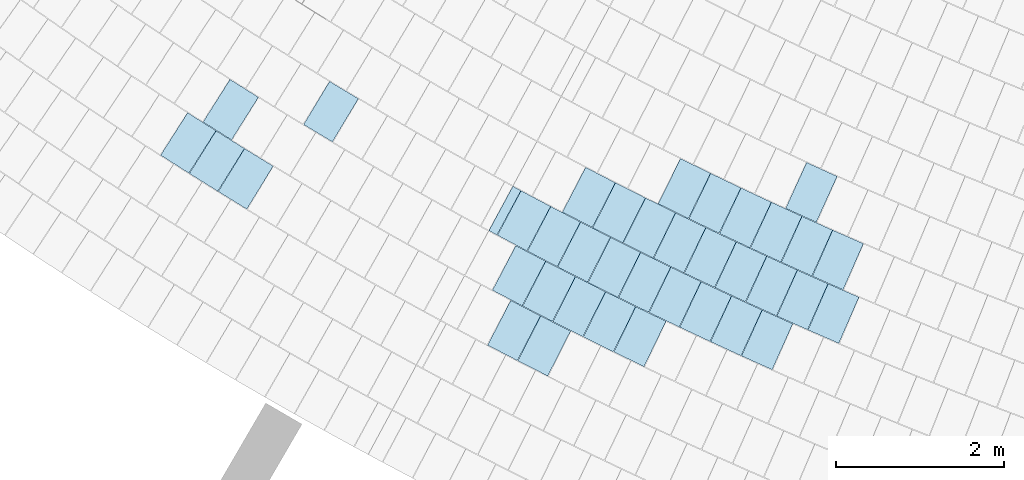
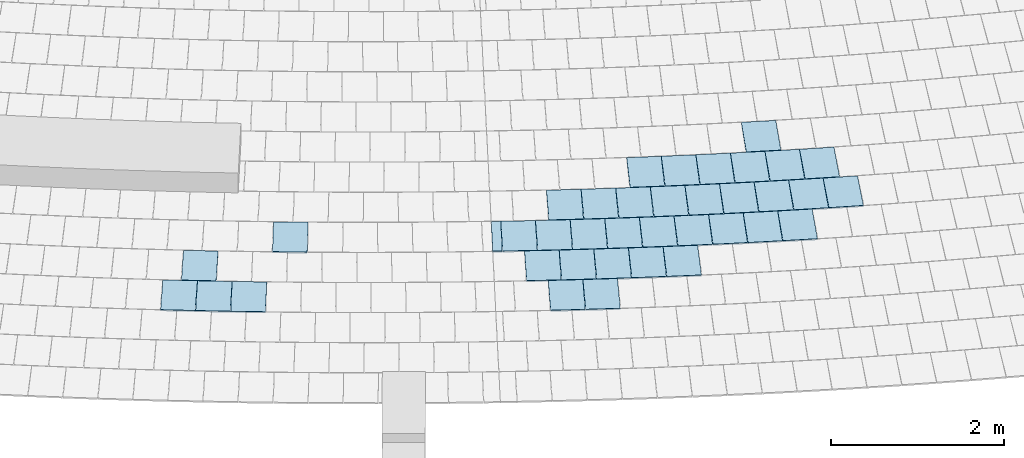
# One storey, part 103 of 438: 38 slabs.
"""IFC2X3 building model written with IfcOpenShell, lengths in millimetres."""

from ifc_helpers import new_model, entity, si_unit, converted_unit, derived_unit, direction, frame, frame_2d, origin, place, context, subcontext, project, spatial, polyline, rectangle, outline, extrude, material, layer, layer_set, layer_usage, type_object, element, save


model = new_model("IFC2X3")

# Units and contexts
model_context = context("Model", 3, precision=0.01, world=origin(), true_north=direction((6.123031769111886e-17, 1.0)))
body_context = subcontext(model_context, "Body", "Model", "MODEL_VIEW")
ifc_project = project(units=[si_unit("LENGTHUNIT", "METRE", prefix="MILLI"), si_unit("AREAUNIT", "SQUARE_METRE"), si_unit("VOLUMEUNIT", "CUBIC_METRE"), converted_unit("PLANEANGLEUNIT", "DEGREE", entity("IfcRatioMeasure", 0.017453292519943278), si_unit("PLANEANGLEUNIT", "RADIAN"), dimensions=[0, 0, 0, 0, 0, 0, 0]), si_unit("MASSUNIT", "GRAM", prefix="KILO"), derived_unit("MASSDENSITYUNIT", [(si_unit("MASSUNIT", "GRAM", prefix="KILO"), 1), (si_unit("LENGTHUNIT", "METRE"), -3)]), derived_unit("MOMENTOFINERTIAUNIT", [(si_unit("LENGTHUNIT", "METRE"), 4)]), si_unit("TIMEUNIT", "SECOND"), si_unit("FREQUENCYUNIT", "HERTZ"), si_unit("THERMODYNAMICTEMPERATUREUNIT", "DEGREE_CELSIUS"), derived_unit("THERMALTRANSMITTANCEUNIT", [(si_unit("MASSUNIT", "GRAM", prefix="KILO"), 1), (si_unit("THERMODYNAMICTEMPERATUREUNIT", "KELVIN"), -1), (si_unit("TIMEUNIT", "SECOND"), -3)]), derived_unit("THERMALCONDUCTANCEUNIT", [(si_unit("MASSUNIT", "GRAM", prefix="KILO"), 1), (si_unit("LENGTHUNIT", "METRE"), 1), (si_unit("THERMODYNAMICTEMPERATUREUNIT", "KELVIN"), -1), (si_unit("TIMEUNIT", "SECOND"), -3)]), derived_unit("VOLUMETRICFLOWRATEUNIT", [(si_unit("LENGTHUNIT", "METRE"), 3), (si_unit("TIMEUNIT", "SECOND"), -1)]), derived_unit("MASSFLOWRATEUNIT", [(si_unit("MASSUNIT", "GRAM", prefix="KILO"), 1), (si_unit("TIMEUNIT", "SECOND"), -1)]), derived_unit("ROTATIONALFREQUENCYUNIT", [(si_unit("TIMEUNIT", "SECOND"), -1)]), si_unit("ELECTRICCURRENTUNIT", "AMPERE"), si_unit("ELECTRICVOLTAGEUNIT", "VOLT"), si_unit("POWERUNIT", "WATT"), converted_unit("FORCEUNIT", "KIP", entity("IfcRatioMeasure", 2.088543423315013e-05), si_unit("FORCEUNIT", "NEWTON"), dimensions=[1, 1, -2, 0, 0, 0, 0]), si_unit("ILLUMINANCEUNIT", "LUX"), si_unit("LUMINOUSFLUXUNIT", "LUMEN"), si_unit("LUMINOUSINTENSITYUNIT", "CANDELA"), derived_unit("USERDEFINED", [(si_unit("MASSUNIT", "GRAM", prefix="KILO"), -1), (si_unit("LENGTHUNIT", "METRE"), -2), (si_unit("TIMEUNIT", "SECOND"), 3), (si_unit("LUMINOUSFLUXUNIT", "LUMEN"), 1)]), derived_unit("USERDEFINED", [(si_unit("MASSUNIT", "GRAM", prefix="KILO"), 1), (si_unit("LENGTHUNIT", "METRE"), 3), (si_unit("TIMEUNIT", "SECOND"), -3), (si_unit("ELECTRICCURRENTUNIT", "AMPERE"), -2)]), derived_unit("USERDEFINED", [(si_unit("LENGTHUNIT", "METRE"), 2), (si_unit("TIMEUNIT", "SECOND"), -2)]), derived_unit("SOUNDPOWERUNIT", [(si_unit("MASSUNIT", "GRAM", prefix="KILO"), 1), (si_unit("LENGTHUNIT", "METRE"), 2), (si_unit("TIMEUNIT", "SECOND"), -3)]), derived_unit("SOUNDPRESSUREUNIT", [(si_unit("MASSUNIT", "GRAM", prefix="KILO"), 1), (si_unit("LENGTHUNIT", "METRE"), -1), (si_unit("TIMEUNIT", "SECOND"), -2)]), derived_unit("LINEARVELOCITYUNIT", [(si_unit("LENGTHUNIT", "METRE"), 1), (si_unit("TIMEUNIT", "SECOND"), -1)]), si_unit("PRESSUREUNIT", "PASCAL"), derived_unit("USERDEFINED", [(si_unit("LENGTHUNIT", "METRE"), -2), (si_unit("MASSUNIT", "GRAM", prefix="KILO"), 1), (si_unit("TIMEUNIT", "SECOND"), -2)]), derived_unit("LINEARFORCEUNIT", [(si_unit("MASSUNIT", "GRAM", prefix="KILO"), 1), (si_unit("LENGTHUNIT", "METRE"), 1), (si_unit("TIMEUNIT", "SECOND"), -2), (si_unit("LENGTHUNIT", "METRE"), -1)]), derived_unit("PLANARFORCEUNIT", [(si_unit("MASSUNIT", "GRAM", prefix="KILO"), 1), (si_unit("LENGTHUNIT", "METRE"), 1), (si_unit("TIMEUNIT", "SECOND"), -2), (si_unit("LENGTHUNIT", "METRE"), -2)]), derived_unit("SPECIFICHEATCAPACITYUNIT", [(si_unit("LENGTHUNIT", "METRE"), 2), (si_unit("TIMEUNIT", "SECOND"), -2), (si_unit("THERMODYNAMICTEMPERATUREUNIT", "KELVIN"), -1)]), derived_unit("VAPORPERMEABILITYUNIT", [(si_unit("TIMEUNIT", "SECOND"), 1), (si_unit("LENGTHUNIT", "METRE"), -1)]), derived_unit("DYNAMICVISCOSITYUNIT", [(si_unit("MASSUNIT", "GRAM", prefix="KILO"), 1), (si_unit("LENGTHUNIT", "METRE"), -1), (si_unit("TIMEUNIT", "SECOND"), -1)]), derived_unit("THERMALEXPANSIONCOEFFICIENTUNIT", [(si_unit("THERMODYNAMICTEMPERATUREUNIT", "KELVIN"), -1)])], contexts=[model_context])

# Site, building, storey
site_placement = place(None, frame((0.0, 0.0, 0.0), z_axis=(0.0, 0.0, 1.0), x_axis=(0.8191520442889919, 0.5735764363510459, 0.0)))
site = spatial("IfcSite", under=ifc_project, at=site_placement, Name="Default", CompositionType="ELEMENT")
building_placement = place(site_placement, origin())
building = spatial("IfcBuilding", under=site, at=building_placement, CompositionType="ELEMENT")
storey_placement = place(building_placement, origin())
storey = spatial("IfcBuildingStorey", under=building, at=storey_placement, Name="PLAN", CompositionType="ELEMENT", Elevation=0.0)

# Slabs
ifc_material = material(Name="Paint-01")
ifc_layer = layer(ifc_material, 20.00000000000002)
ifc_layer_set = layer_set([ifc_layer], Name="Floor:Slab-179:1000")
ifc_layer_usage = layer_usage(ifc_layer_set, "AXIS3", "POSITIVE", 0.0)
slab_type = type_object("IfcSlabType", Name="Floor:Slab-179:1000", PredefinedType="FLOOR", material=ifc_layer_set)
slab_1_placement = place(storey_placement, origin())
element("IfcSlab", 1, at=slab_1_placement, inside=storey, type_object=slab_type, material=ifc_layer_usage, Name="Floor:Slab-179:1000", ObjectType="Floor:Slab-179:1000", PredefinedType="FLOOR", context=body_context, shape_type="SweptSolid", body=[
    extrude(outline(polyline([(-200.00000134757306, -299.9999986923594), (200.0000045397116, -299.9999986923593), (200.00000134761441, 299.9999986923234), (-200.00000453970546, 299.9999986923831), (-200.00000134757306, -299.9999986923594)])), frame((-81078.47489839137, -91961.8008303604, 520.0), z_axis=(0.0, 0.0, -1.0), x_axis=(0.5076462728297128, -0.8615655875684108, 0.0)), (0.0, 0.0, 1.0), 19.999999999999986),
])
slab_2_placement = place(storey_placement, origin())
element("IfcSlab", 2, at=slab_2_placement, inside=storey, type_object=slab_type, material=ifc_layer_usage, Name="Floor:Slab-179:1000", ObjectType="Floor:Slab-179:1000", PredefinedType="FLOOR", context=body_context, shape_type="SweptSolid", body=[
    extrude(outline(polyline([(-200.00000134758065, -299.99999869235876), (200.00000453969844, -299.99999869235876), (200.00000134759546, 299.9999986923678), (-200.00000453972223, 299.9999986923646), (-200.00000134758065, -299.99999869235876)])), frame((-81281.88696042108, -92800.4642135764, 520.0), z_axis=(0.0, 0.0, -1.0), x_axis=(0.5187407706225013, -0.8549315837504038, 0.0)), (0.0, 0.0, 1.0), 19.999999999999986),
])
slab_3_placement = place(storey_placement, origin())
element("IfcSlab", 3, at=slab_3_placement, inside=storey, type_object=slab_type, material=ifc_layer_usage, Name="Floor:Slab-179:1000", ObjectType="Floor:Slab-179:1000", PredefinedType="FLOOR", context=body_context, shape_type="SweptSolid", body=[
    extrude(outline(polyline([(-200.00000134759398, -299.9999986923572), (200.0000045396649, -299.99999869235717), (200.00000134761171, 299.99999869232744), (-200.0000045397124, 299.9999986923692), (-200.00000134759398, -299.9999986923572)])), frame((-81489.24147585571, -92455.46568242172, 520.0), z_axis=(0.0, 0.0, -1.0), x_axis=(0.5115397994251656, -0.8592595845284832, 0.0)), (0.0, 0.0, 1.0), 20.000000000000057),
])
slab_4_placement = place(storey_placement, origin())
element("IfcSlab", 4, at=slab_4_placement, inside=storey, type_object=slab_type, material=ifc_layer_usage, Name="Floor:Slab-179:1000", ObjectType="Floor:Slab-179:1000", PredefinedType="FLOOR", context=body_context, shape_type="SweptSolid", body=[
    extrude(outline(polyline([(-200.0000013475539, -299.9999986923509), (200.00000453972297, -299.99999869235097), (200.00000134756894, 299.99999869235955), (-200.00000453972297, 299.99999869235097), (-200.0000013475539, -299.9999986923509)])), frame((-81895.21865940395, -91760.30338737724, 520.0), z_axis=(0.0, 0.0, -1.0), x_axis=(0.49703004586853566, -0.8677333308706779, 0.0)), (0.0, 0.0, 1.0), 19.999999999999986),
])
slab_5_placement = place(storey_placement, origin())
element("IfcSlab", 5, at=slab_5_placement, inside=storey, type_object=slab_type, material=ifc_layer_usage, Name="Floor:Slab-179:1000", ObjectType="Floor:Slab-179:1000", PredefinedType="FLOOR", context=body_context, shape_type="SweptSolid", body=[
    extrude(outline(polyline([(-200.00000134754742, -299.9999986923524), (200.000004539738, -299.99999869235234), (200.0000013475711, 299.9999986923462), (-200.00000453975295, 299.99999869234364), (-200.00000134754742, -299.9999986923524)])), frame((-81693.69018589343, -92108.73724901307, 520.0), z_axis=(0.0, 0.0, -1.0), x_axis=(0.5043027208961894, -0.8635269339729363, 0.0)), (0.0, 0.0, 1.0), 20.000000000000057),
])
slab_6_placement = place(storey_placement, origin())
element("IfcSlab", 6, at=slab_6_placement, inside=storey, type_object=slab_type, material=ifc_layer_usage, Name="Floor:Slab-179:1000", ObjectType="Floor:Slab-179:1000", PredefinedType="FLOOR", context=body_context, shape_type="SweptSolid", body=[
    extrude(outline(polyline([(-200.00000134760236, -299.9999986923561), (200.00000453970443, -299.9999986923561), (200.00000134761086, 299.99999869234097), (-200.00000453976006, 299.9999986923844), (-200.00000134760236, -299.9999986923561)])), frame((-82093.81267138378, -91410.18869191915, 520.0), z_axis=(0.0, 0.0, -1.0), x_axis=(0.4897222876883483, -0.8718784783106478, 0.0)), (0.0, 0.0, 1.0), 20.000000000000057),
])
slab_7_placement = place(storey_placement, origin())
element("IfcSlab", 7, at=slab_7_placement, inside=storey, type_object=slab_type, material=ifc_layer_usage, Name="Floor:Slab-179:1000", ObjectType="Floor:Slab-179:1000", PredefinedType="FLOOR", context=body_context, shape_type="SweptSolid", body=[
    extrude(outline(polyline([(-200.00000134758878, -299.9999986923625), (200.00000453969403, -299.99999869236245), (200.0000013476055, 299.9999986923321), (-200.00000453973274, 299.9999986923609), (-200.00000134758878, -299.9999986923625)])), frame((-82289.45820396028, -91058.41787568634, 520.0), z_axis=(0.0, 0.0, -1.0), x_axis=(0.48237996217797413, -0.8759620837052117, 0.0)), (0.0, 0.0, 1.0), 20.000000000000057),
])
slab_8_placement = place(storey_placement, origin())
element("IfcSlab", 8, at=slab_8_placement, inside=storey, type_object=slab_type, material=ifc_layer_usage, Name="Floor:Slab-179:1000", ObjectType="Floor:Slab-179:1000", PredefinedType="FLOOR", context=body_context, shape_type="SweptSolid", body=[
    extrude(outline(polyline([(-200.00000134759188, -299.99999869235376), (200.00000453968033, -299.9999986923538), (200.00000134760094, 299.99999869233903), (-200.0000045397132, 299.99999869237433), (-200.00000134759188, -299.99999869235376)])), frame((-81690.36360249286, -93292.67654649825, 520.0), z_axis=(0.0, 0.0, -1.0), x_axis=(0.5224174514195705, -0.8526898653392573, 0.0)), (0.0, 0.0, 1.0), 20.000000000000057),
])
slab_9_placement = place(storey_placement, origin())
element("IfcSlab", 9, at=slab_9_placement, inside=storey, type_object=slab_type, material=ifc_layer_usage, Name="Floor:Slab-179:1000", ObjectType="Floor:Slab-179:1000", PredefinedType="FLOOR", context=body_context, shape_type="SweptSolid", body=[
    extrude(outline(polyline([(-200.00000134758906, -299.9999986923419), (200.0000045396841, -299.9999986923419), (200.00000134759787, 299.9999986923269), (-200.00000453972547, 299.9999986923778), (-200.00000134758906, -299.9999986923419)])), frame((-82105.18203110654, -92602.82692848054, 520.0), z_axis=(0.0, 0.0, -1.0), x_axis=(0.5081981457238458, -0.8612401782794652, 0.0)), (0.0, 0.0, 1.0), 19.999999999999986),
])
slab_10_placement = place(storey_placement, origin())
element("IfcSlab", 10, at=slab_10_placement, inside=storey, type_object=slab_type, material=ifc_layer_usage, Name="Floor:Slab-179:1000", ObjectType="Floor:Slab-179:1000", PredefinedType="FLOOR", context=body_context, shape_type="SweptSolid", body=[
    extrude(outline(polyline([(-200.00000134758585, -299.9999986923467), (200.00000453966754, -299.9999986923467), (200.00000134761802, 299.99999869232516), (-200.00000453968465, 299.99999869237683), (-200.00000134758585, -299.9999986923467)])), frame((-82508.49772726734, -91906.18981101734, 520.0), z_axis=(0.0, 0.0, -1.0), x_axis=(0.4938389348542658, -0.8695533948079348, 0.0)), (0.0, 0.0, 1.0), 20.000000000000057),
])
slab_11_placement = place(storey_placement, origin())
element("IfcSlab", 11, at=slab_11_placement, inside=storey, type_object=slab_type, material=ifc_layer_usage, Name="Floor:Slab-179:1000", ObjectType="Floor:Slab-179:1000", PredefinedType="FLOOR", context=body_context, shape_type="SweptSolid", body=[
    extrude(rectangle(XDim=399.9997195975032, YDim=599.9995679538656, at=frame_2d((7.503331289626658e-12, 4.348521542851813e-12), x_axis=(1.0, 0.0))), frame((-82308.25697069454, -92254.91438018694, 520.0), z_axis=(0.0, 0.0, -1.0), x_axis=(0.5000000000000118, -0.8660254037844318, 0.0)), (0.0, 0.0, 1.0), 20.000000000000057),
])
slab_12_placement = place(storey_placement, origin())
element("IfcSlab", 12, at=slab_12_placement, inside=storey, type_object=slab_type, material=ifc_layer_usage, Name="Floor:Slab-179:1000", ObjectType="Floor:Slab-179:1000", PredefinedType="FLOOR", context=body_context, shape_type="SweptSolid", body=[
    extrude(outline(polyline([(-200.00000134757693, -299.9999986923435), (200.00000453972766, -299.9999986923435), (200.00000134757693, 299.9999986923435), (-200.00000453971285, 299.9999986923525), (-200.00000134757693, -299.9999986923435)])), frame((-81899.20359483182, -92948.61208890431, 520.0), z_axis=(0.0, 0.0, -1.0), x_axis=(0.5153255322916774, -0.8569945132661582, 0.0)), (0.0, 0.0, 1.0), 20.000000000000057),
])
slab_13_placement = place(storey_placement, origin())
element("IfcSlab", 13, at=slab_13_placement, inside=storey, type_object=slab_type, material=ifc_layer_usage, Name="Floor:Slab-179:1000", ObjectType="Floor:Slab-179:1000", PredefinedType="FLOOR", context=body_context, shape_type="SweptSolid", body=[
    extrude(outline(polyline([(-200.00000134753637, -299.99999869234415), (200.00000453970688, -299.99999869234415), (200.0000013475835, 299.99999869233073), (-200.00000453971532, 299.9999986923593), (-200.00000134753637, -299.99999869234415)])), frame((-82705.80722882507, -91555.38580024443, 520.0), z_axis=(0.0, 0.0, -1.0), x_axis=(0.48660809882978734, -0.8736203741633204, 0.0)), (0.0, 0.0, 1.0), 20.000000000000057),
])
slab_14_placement = place(storey_placement, origin())
element("IfcSlab", 14, at=slab_14_placement, inside=storey, type_object=slab_type, material=ifc_layer_usage, Name="Floor:Slab-179:1000", ObjectType="Floor:Slab-179:1000", PredefinedType="FLOOR", context=body_context, shape_type="SweptSolid", body=[
    extrude(outline(polyline([(-200.00000134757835, -299.99999869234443), (200.0000045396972, -299.99999869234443), (200.00000134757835, 299.99999869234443), (-200.00000453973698, 299.99999869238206), (-200.00000134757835, -299.99999869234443)])), frame((-83091.66164039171, -90848.92759392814, 520.0), z_axis=(0.0, 0.0, -1.0), x_axis=(0.47204645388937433, -0.8815736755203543, 0.0)), (0.0, 0.0, 1.0), 20.000000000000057),
])
slab_15_placement = place(storey_placement, origin())
element("IfcSlab", 15, at=slab_15_placement, inside=storey, type_object=slab_type, material=ifc_layer_usage, Name="Floor:Slab-179:1000", ObjectType="Floor:Slab-179:1000", PredefinedType="FLOOR", context=body_context, shape_type="SweptSolid", body=[
    extrude(outline(polyline([(-200.00000134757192, -299.9999986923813), (200.00000453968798, -299.9999986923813), (200.0000013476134, 299.9999986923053), (-200.0000045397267, 299.9999986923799), (-200.00000134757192, -299.9999986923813)])), frame((-82900.19965957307, -91202.95697587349, 520.0), z_axis=(0.0, 0.0, -1.0), x_axis=(0.47934377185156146, -0.877627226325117, 0.0)), (0.0, 0.0, 1.0), 20.000000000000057),
])
slab_16_placement = place(storey_placement, origin())
element("IfcSlab", 16, at=slab_16_placement, inside=storey, type_object=slab_type, material=ifc_layer_usage, Name="Floor:Slab-179:1000", ObjectType="Floor:Slab-179:1000", PredefinedType="FLOOR", context=body_context, shape_type="SweptSolid", body=[
    extrude(outline(polyline([(-200.00000134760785, -299.9999986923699), (200.000004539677, -299.9999986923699), (200.00000134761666, 299.99999869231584), (-200.00000453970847, 299.9999986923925), (-200.00000134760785, -299.9999986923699)])), frame((-83280.17999385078, -90493.32202059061, 520.0), z_axis=(0.0, 0.0, -1.0), x_axis=(0.4647166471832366, -0.8854594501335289, 0.0)), (0.0, 0.0, 1.0), 20.000000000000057),
])
slab_17_placement = place(storey_placement, origin())
element("IfcSlab", 17, at=slab_17_placement, inside=storey, type_object=slab_type, material=ifc_layer_usage, Name="Floor:Slab-179:1000", ObjectType="Floor:Slab-179:1000", PredefinedType="FLOOR", context=body_context, shape_type="SweptSolid", body=[
    extrude(outline(polyline([(-200.0000013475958, -299.9999986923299), (200.00000453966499, -299.99999869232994), (200.0000013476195, 299.99999869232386), (-200.00000453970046, 299.99999869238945), (-200.0000013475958, -299.9999986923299)])), frame((-82515.85949713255, -93096.39718060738, 520.0), z_axis=(0.0, 0.0, -1.0), x_axis=(0.5119870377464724, -0.8589931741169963, 0.0)), (0.0, 0.0, 1.0), 20.000000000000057),
])
slab_18_placement = place(storey_placement, origin())
element("IfcSlab", 18, at=slab_18_placement, inside=storey, type_object=slab_type, material=ifc_layer_usage, Name="Floor:Slab-179:1000", ObjectType="Floor:Slab-179:1000", PredefinedType="FLOOR", context=body_context, shape_type="SweptSolid", body=[
    extrude(outline(polyline([(-200.00000134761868, -299.9999986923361), (200.00000453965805, -299.9999986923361), (200.00000134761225, 299.99999869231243), (-200.00000453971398, 299.99999869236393), (-200.00000134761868, -299.9999986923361)])), frame((-82922.28047512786, -92401.63818822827, 520.0), z_axis=(0.0, 0.0, -1.0), x_axis=(0.49784292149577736, -0.8672672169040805, 0.0)), (0.0, 0.0, 1.0), 20.000000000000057),
])
slab_19_placement = place(storey_placement, origin())
element("IfcSlab", 19, at=slab_19_placement, inside=storey, type_object=slab_type, material=ifc_layer_usage, Name="Floor:Slab-179:1000", ObjectType="Floor:Slab-179:1000", PredefinedType="FLOOR", context=body_context, shape_type="SweptSolid", body=[
    extrude(outline(polyline([(-200.0000013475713, -299.99999869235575), (200.00000453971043, -299.99999869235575), (200.00000134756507, 299.99999869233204), (-200.0000045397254, 299.999998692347), (-200.0000013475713, -299.99999869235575)])), frame((-82720.49308937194, -92749.85017311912, 520.0), z_axis=(0.0, 0.0, -1.0), x_axis=(0.5049319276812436, -0.8631591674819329, 0.0)), (0.0, 0.0, 1.0), 20.000000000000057),
])
slab_20_placement = place(storey_placement, origin())
element("IfcSlab", 20, at=slab_20_placement, inside=storey, type_object=slab_type, material=ifc_layer_usage, Name="Floor:Slab-179:1000", ObjectType="Floor:Slab-179:1000", PredefinedType="FLOOR", context=body_context, shape_type="SweptSolid", body=[
    extrude(outline(polyline([(-200.00000134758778, -299.9999986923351), (200.00000453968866, -299.9999986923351), (200.0000013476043, 299.99999869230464), (-200.0000045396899, 299.9999986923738), (-200.00000134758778, -299.9999986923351)])), frame((-83510.43089423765, -91347.24667354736, 520.0), z_axis=(0.0, 0.0, -1.0), x_axis=(0.4763772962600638, -0.8792409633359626, 0.0)), (0.0, 0.0, 1.0), 20.000000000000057),
])
slab_21_placement = place(storey_placement, origin())
element("IfcSlab", 21, at=slab_21_placement, inside=storey, type_object=slab_type, material=ifc_layer_usage, Name="Floor:Slab-179:1000", ObjectType="Floor:Slab-179:1000", PredefinedType="FLOOR", context=body_context, shape_type="SweptSolid", body=[
    extrude(outline(polyline([(-200.00000134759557, -299.99999869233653), (200.00000453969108, -299.99999869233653), (200.0000013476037, 299.99999869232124), (-200.0000045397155, 299.99999869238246), (-200.00000134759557, -299.99999869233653)])), frame((-83700.69991825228, -90992.60962814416, 520.0), z_axis=(0.0, 0.0, -1.0), x_axis=(0.46915748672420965, -0.8831145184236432, 0.0)), (0.0, 0.0, 1.0), 19.999999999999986),
])
slab_22_placement = place(storey_placement, origin())
element("IfcSlab", 22, at=slab_22_placement, inside=storey, type_object=slab_type, material=ifc_layer_usage, Name="Floor:Slab-179:1000", ObjectType="Floor:Slab-179:1000", PredefinedType="FLOOR", context=body_context, shape_type="SweptSolid", body=[
    extrude(outline(polyline([(-200.00000134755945, -299.9999986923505), (200.00000453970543, -299.9999986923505), (200.00000134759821, 299.9999986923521), (-200.0000045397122, 299.999998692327), (-200.00000134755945, -299.9999986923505)])), frame((-83317.2626351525, -91700.31289843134, 520.0), z_axis=(0.0, 0.0, -1.0), x_axis=(0.4835651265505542, -0.8753083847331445, 0.0)), (0.0, 0.0, 1.0), 20.000000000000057),
])
slab_23_placement = place(storey_placement, origin())
element("IfcSlab", 23, at=slab_23_placement, inside=storey, type_object=slab_type, material=ifc_layer_usage, Name="Floor:Slab-179:1000", ObjectType="Floor:Slab-179:1000", PredefinedType="FLOOR", context=body_context, shape_type="SweptSolid", body=[
    extrude(outline(polyline([(-200.00000134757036, -299.9999986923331), (200.00000453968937, -299.9999986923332), (200.00000134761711, 299.99999869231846), (-200.00000453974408, 299.99999869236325), (-200.00000134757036, -299.9999986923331)])), frame((-83888.05693442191, -90636.4255690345, 520.0), z_axis=(0.0, 0.0, -1.0), x_axis=(0.46190618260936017, -0.8869287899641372, 0.0)), (0.0, 0.0, 1.0), 19.99999999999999),
])
slab_24_placement = place(storey_placement, origin())
element("IfcSlab", 24, at=slab_24_placement, inside=storey, type_object=slab_type, material=ifc_layer_usage, Name="Floor:Slab-179:1000", ObjectType="Floor:Slab-179:1000", PredefinedType="FLOOR", context=body_context, shape_type="SweptSolid", body=[
    extrude(outline(polyline([(-299.9999989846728, -54.94449933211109), (299.9999984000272, -54.94449933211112), (299.9999989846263, 54.944499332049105), (-299.9999984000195, 54.94449933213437), (-299.9999989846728, -54.94449933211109)])), frame((-84189.0999022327, -90049.24667285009, 520.0), z_axis=(0.0, 0.0, -1.0), x_axis=(0.8943784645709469, 0.44731103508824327, 0.0)), (0.0, 0.0, 1.0), 19.999999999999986),
])
slab_25_placement = place(storey_placement, origin())
element("IfcSlab", 25, at=slab_25_placement, inside=storey, type_object=slab_type, material=ifc_layer_usage, Name="Floor:Slab-179:1000", ObjectType="Floor:Slab-179:1000", PredefinedType="FLOOR", context=body_context, shape_type="SweptSolid", body=[
    extrude(outline(polyline([(-200.00000134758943, -299.9999986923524), (200.0000045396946, -299.9999986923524), (200.00000134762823, 299.9999986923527), (-200.0000045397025, 299.9999986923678), (-200.00000134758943, -299.9999986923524)])), frame((-84072.48936545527, -90278.71840688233, 520.0), z_axis=(0.0, 0.0, -1.0), x_axis=(0.45462387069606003, -0.8906835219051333, 0.0)), (0.0, 0.0, 1.0), 20.000000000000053),
])
slab_26_placement = place(storey_placement, origin())
element("IfcSlab", 26, at=slab_26_placement, inside=storey, type_object=slab_type, material=ifc_layer_usage, Name="Floor:Slab-179:1000", ObjectType="Floor:Slab-179:1000", PredefinedType="FLOOR", context=body_context, shape_type="SweptSolid", body=[
    extrude(outline(polyline([(-200.00000134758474, -299.99999869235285), (200.0000045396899, -299.9999986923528), (200.00000134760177, 299.9999986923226), (-200.0000045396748, 299.9999986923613), (-200.00000134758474, -299.99999869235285)])), frame((-83121.20810839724, -92051.7846014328, 520.0), z_axis=(0.0, 0.0, -1.0), x_axis=(0.49072049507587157, -0.8713170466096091, 0.0)), (0.0, 0.0, 1.0), 19.999999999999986),
])
slab_27_placement = place(storey_placement, origin())
element("IfcSlab", 27, at=slab_27_placement, inside=storey, type_object=slab_type, material=ifc_layer_usage, Name="Floor:Slab-179:1000", ObjectType="Floor:Slab-179:1000", PredefinedType="FLOOR", context=body_context, shape_type="SweptSolid", body=[
    extrude(outline(polyline([(-200.0000013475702, -299.99999869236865), (200.00000453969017, -299.99999869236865), (200.00000134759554, 299.99999869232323), (-200.0000045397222, 299.9999986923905), (-200.0000013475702, -299.99999869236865)])), frame((-83733.36972335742, -92197.10045682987, 520.0), z_axis=(0.0, 0.0, -1.0), x_axis=(0.4876723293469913, -0.8730267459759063, 0.0)), (0.0, 0.0, 1.0), 20.000000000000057),
])
slab_28_placement = place(storey_placement, origin())
element("IfcSlab", 28, at=slab_28_placement, inside=storey, type_object=slab_type, material=ifc_layer_usage, Name="Floor:Slab-179:1000", ObjectType="Floor:Slab-179:1000", PredefinedType="FLOOR", context=body_context, shape_type="SweptSolid", body=[
    extrude(outline(polyline([(-200.00000134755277, -299.99999869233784), (200.0000045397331, -299.99999869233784), (200.00000134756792, 299.9999986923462), (-200.00000453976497, 299.9999986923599), (-200.00000134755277, -299.99999869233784)])), frame((-83928.19782523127, -91844.98173340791, 520.0), z_axis=(0.0, 0.0, -1.0), x_axis=(0.4805910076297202, -0.8769448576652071, 0.0)), (0.0, 0.0, 1.0), 20.000000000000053),
])
slab_29_placement = place(storey_placement, origin())
element("IfcSlab", 29, at=slab_29_placement, inside=storey, type_object=slab_type, material=ifc_layer_usage, Name="Floor:Slab-179:1000", ObjectType="Floor:Slab-179:1000", PredefinedType="FLOOR", context=body_context, shape_type="SweptSolid", body=[
    extrude(outline(polyline([(-200.00000134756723, -299.9999986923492), (200.00000453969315, -299.9999986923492), (200.00000134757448, 299.9999986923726), (-200.00000453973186, 299.99999869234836), (-200.00000134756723, -299.9999986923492)])), frame((-84309.27328964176, -91136.07185043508, 520.0), z_axis=(0.0, 0.0, -1.0), x_axis=(0.4663343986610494, -0.8846085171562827, 0.0)), (0.0, 0.0, 1.0), 20.000000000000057),
])
slab_30_placement = place(storey_placement, origin())
element("IfcSlab", 30, at=slab_30_placement, inside=storey, type_object=slab_type, material=ifc_layer_usage, Name="Floor:Slab-179:1000", ObjectType="Floor:Slab-179:1000", PredefinedType="FLOOR", context=body_context, shape_type="SweptSolid", body=[
    extrude(outline(polyline([(-200.0000013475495, -299.99999869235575), (200.00000453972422, -299.99999869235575), (200.00000134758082, 299.9999986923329), (-200.00000453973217, 299.9999986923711), (-200.0000013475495, -299.99999869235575)])), frame((-84495.4956929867, -90779.3271221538, 520.0), z_axis=(0.0, 0.0, -1.0), x_axis=(0.45916004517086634, -0.8883535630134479, 0.0)), (0.0, 0.0, 1.0), 20.000000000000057),
])
slab_31_placement = place(storey_placement, origin())
element("IfcSlab", 31, at=slab_31_placement, inside=storey, type_object=slab_type, material=ifc_layer_usage, Name="Floor:Slab-179:1000", ObjectType="Floor:Slab-179:1000", PredefinedType="FLOOR", context=body_context, shape_type="SweptSolid", body=[
    extrude(outline(polyline([(-200.00000134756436, -299.9999986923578), (200.00000453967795, -299.99999869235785), (200.0000013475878, 299.99999869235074), (-200.00000453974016, 299.9999986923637), (-200.00000134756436, -299.9999986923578)])), frame((-84120.16987183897, -91491.29780956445, 520.0), z_axis=(0.0, 0.0, -1.0), x_axis=(0.47347820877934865, -0.8808055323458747, 0.0)), (0.0, 0.0, 1.0), 20.000000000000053),
])
slab_32_placement = place(storey_placement, origin())
element("IfcSlab", 32, at=slab_32_placement, inside=storey, type_object=slab_type, material=ifc_layer_usage, Name="Floor:Slab-179:1000", ObjectType="Floor:Slab-179:1000", PredefinedType="FLOOR", context=body_context, shape_type="SweptSolid", body=[
    extrude(outline(polyline([(-200.0000013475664, -299.99999869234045), (200.0000045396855, -299.99999869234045), (200.00000134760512, 299.9999986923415), (-200.00000453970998, 299.99999869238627), (-200.0000013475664, -299.99999869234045)])), frame((-84729.43372961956, -91635.12062228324, 520.0), z_axis=(0.0, 0.0, -1.0), x_axis=(0.47064428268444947, -0.8823230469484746, 0.0)), (0.0, 0.0, 1.0), 19.999999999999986),
])
slab_33_placement = place(storey_placement, origin())
element("IfcSlab", 33, at=slab_33_placement, inside=storey, type_object=slab_type, material=ifc_layer_usage, Name="Floor:Slab-179:1000", ObjectType="Floor:Slab-179:1000", PredefinedType="FLOOR", context=body_context, shape_type="SweptSolid", body=[
    extrude(outline(polyline([(-200.00000134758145, -299.999998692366), (200.00000453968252, -299.999998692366), (200.00000134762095, 299.99999869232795), (-200.00000453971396, 299.99999869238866), (-200.00000134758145, -299.999998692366)])), frame((-84917.39797817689, -91279.32368558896, 520.0), z_axis=(0.0, 0.0, -1.0), x_axis=(0.4635750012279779, -0.886057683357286, 0.0)), (0.0, 0.0, 1.0), 19.99999999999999),
])
slab_34_placement = place(storey_placement, origin())
element("IfcSlab", 34, at=slab_34_placement, inside=storey, type_object=slab_type, material=ifc_layer_usage, Name="Floor:Slab-179:1000", ObjectType="Floor:Slab-179:1000", PredefinedType="FLOOR", context=body_context, shape_type="SweptSolid", body=[
    extrude(outline(polyline([(-200.00000453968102, -299.99999869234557), (200.00000134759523, -299.9999986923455), (200.00000453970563, 299.9999986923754), (-200.00000134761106, 299.99999869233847), (-200.00000453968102, -299.99999869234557)])), frame((-85208.00230580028, -87898.32064947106, 520.0), z_axis=(0.0, 0.0, -1.0), x_axis=(0.40616299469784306, -0.9138006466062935, 0.0)), (0.0, 0.0, 1.0), 19.99999999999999),
])
slab_35_placement = place(storey_placement, origin())
element("IfcSlab", 35, at=slab_35_placement, inside=storey, type_object=slab_type, material=ifc_layer_usage, Name="Floor:Slab-179:1000", ObjectType="Floor:Slab-179:1000", PredefinedType="FLOOR", context=body_context, shape_type="SweptSolid", body=[
    extrude(outline(polyline([(-200.00000453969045, -299.99999869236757), (200.00000134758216, -299.9999986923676), (200.00000453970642, 299.9999986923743), (-200.0000013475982, 299.9999986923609), (-200.00000453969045, -299.99999869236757)])), frame((-86170.77400169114, -87195.34880383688, 520.0), z_axis=(0.0, 0.0, -1.0), x_axis=(0.38708405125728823, -0.9220444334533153, 0.0)), (0.0, 0.0, 1.0), 20.000000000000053),
])
slab_36_placement = place(storey_placement, origin())
element("IfcSlab", 36, at=slab_36_placement, inside=storey, type_object=slab_type, material=ifc_layer_usage, Name="Floor:Slab-179:1000", ObjectType="Floor:Slab-179:1000", PredefinedType="FLOOR", context=body_context, shape_type="SweptSolid", body=[
    extrude(outline(polyline([(-200.00000453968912, -299.99999869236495), (200.00000134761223, -299.99999869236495), (200.00000453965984, 299.99999869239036), (-200.0000013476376, 299.9999986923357), (-200.00000453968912, -299.99999869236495)])), frame((-86811.78382713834, -87230.21737299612, 520.0), z_axis=(0.0, 0.0, -1.0), x_axis=(0.3831238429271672, -0.9236969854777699, 0.0)), (0.0, 0.0, 1.0), 20.000000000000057),
])
slab_37_placement = place(storey_placement, origin())
element("IfcSlab", 37, at=slab_37_placement, inside=storey, type_object=slab_type, material=ifc_layer_usage, Name="Floor:Slab-179:1000", ObjectType="Floor:Slab-179:1000", PredefinedType="FLOOR", context=body_context, shape_type="SweptSolid", body=[
    extrude(outline(polyline([(-200.00000453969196, -299.99999869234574), (200.0000013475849, -299.99999869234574), (200.00000453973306, 299.99999869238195), (-200.00000134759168, 299.9999986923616), (-200.00000453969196, -299.99999869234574)])), frame((-86656.13194145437, -87601.28948105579, 520.0), z_axis=(0.0, 0.0, -1.0), x_axis=(0.390496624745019, -0.9206043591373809, 0.0)), (0.0, 0.0, 1.0), 19.99999999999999),
])
slab_38_placement = place(storey_placement, origin())
element("IfcSlab", 38, at=slab_38_placement, inside=storey, type_object=slab_type, material=ifc_layer_usage, Name="Floor:Slab-179:1000", ObjectType="Floor:Slab-179:1000", PredefinedType="FLOOR", context=body_context, shape_type="SweptSolid", body=[
    extrude(outline(polyline([(-200.00000453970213, -299.99999869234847), (200.0000013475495, -299.99999869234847), (200.00000453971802, 299.9999986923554), (-200.00000134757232, 299.9999986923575), (-200.00000453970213, -299.99999869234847)])), frame((-86497.5182811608, -87971.10528069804, 520.0), z_axis=(0.0, 0.0, -1.0), x_axis=(0.3978444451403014, -0.9174528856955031, 0.0)), (0.0, 0.0, 1.0), 20.000000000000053),
])

save(model, "model.ifc")
